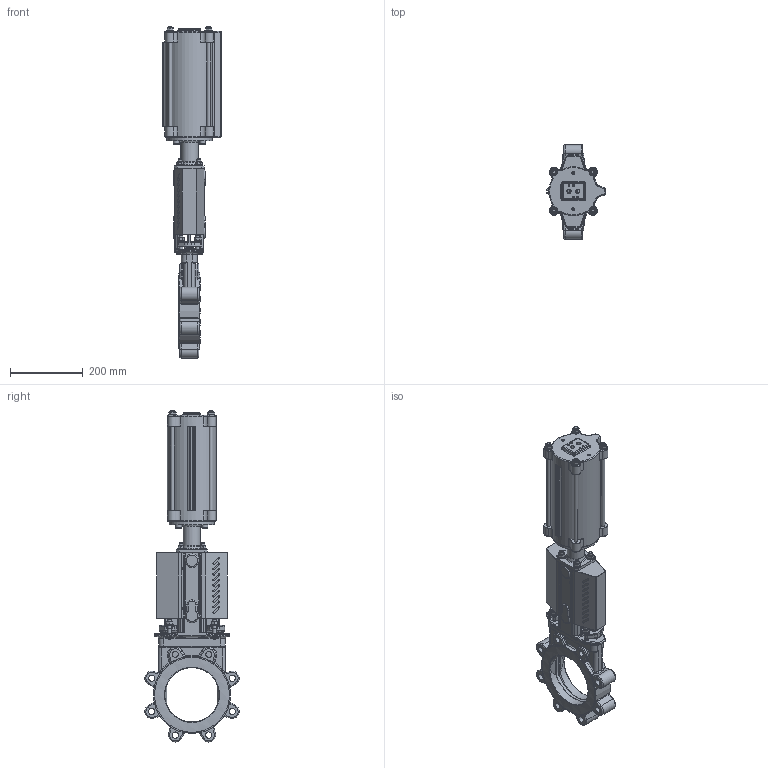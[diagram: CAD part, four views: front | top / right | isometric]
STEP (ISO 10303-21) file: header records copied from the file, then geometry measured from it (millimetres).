
FILE_DESCRIPTION(/* description */ (''),/* implementation_level */ '2;1');
FILE_NAME(/* name */ 'F:\Emir\3D-block special\WB\WB14-DN150-PN10-FRSC125-165_Shrinkwrap_1.stp',/* time_stamp */ '2018-01-19T14:44:59+01:00',/* author */ ('emimus'),/* organization */ (''),/* preprocessor_version */ 'ST-DEVELOPER v16.5',/* originating_system */ 'Autodesk Inventor 2017',/* authorisation */ '');
FILE_SCHEMA (('CONFIG_CONTROL_DESIGN'));
Products named in the file (1): WB14-DN150-PN10-FRSC125-165_Shrinkwrap_1
Bounding box: 161.5 x 259.71 x 914.36 mm (x, y, z)
Volume: 4102963.1 mm3; surface area: 1151916.7 mm2
Topology: 2 solids, 2 shells, 2316 faces, 5702 edges, 3463 vertices
Faces by surface type: plane 801, cylinder 740, torus 314, bspline 201, cone 200, sphere 60
Full cylindrical faces by diameter (mm): 3.7 x1, 4 x4, 4.134 x4, 4.2 x7, 4.4 x7, 6.4 x2, 6.647 x2, 8 x7, 8.2 x2, 8.376 x8, 9 x2, 10 x34, 10.5 x12, 11 x4, 11.445 x2, 13.835 x1, 15 x3, 16 x4, 16.307 x4, 17.294 x6, 20 x12, 22 x2, 28 x2, 30.1 x2, 34 x1, 36 x1, 36.4 x1, 38 x1, 40 x1, 48 x1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
Entity records: 71812 total; most frequent: CARTESIAN_POINT 19179, DIRECTION 11399, ORIENTED_EDGE 10638, EDGE_CURVE 5319, AXIS2_PLACEMENT_3D 4724, VERTEX_POINT 3366, EDGE_LOOP 2821, CIRCLE 2399
